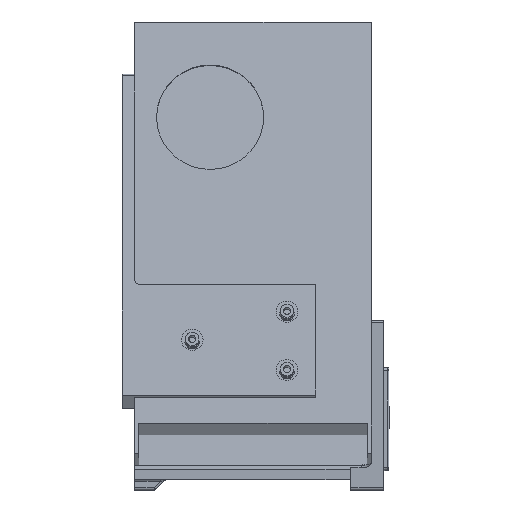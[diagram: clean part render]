
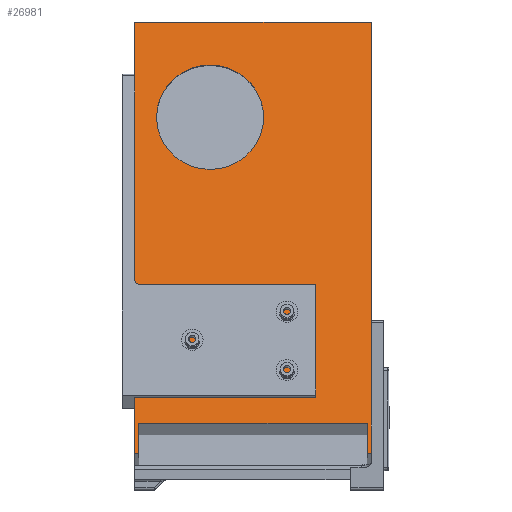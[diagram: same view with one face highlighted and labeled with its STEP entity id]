
A CAD part, front view. The second image highlights one B-rep face of the part: STEP entity #26981.
In plain terms, the highlighted planar face has unit normal (0, -0.974, 0.225) as drawn and (-1, 0, 0) by its records, which use the part's own axes.
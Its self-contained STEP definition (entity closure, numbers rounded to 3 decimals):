
#508=FACE_BOUND('',#3156,.T.);
#629=PLANE('',#28496);
#1679=FACE_OUTER_BOUND('',#3155,.T.);
#3155=EDGE_LOOP('',(#18563,#18564,#18565,#18566,#18567,#18568,#18569,#18570));
#3156=EDGE_LOOP('',(#18571));
#4736=LINE('',#37778,#8021);
#4739=LINE('',#37784,#8024);
#4742=LINE('',#37790,#8027);
#4745=LINE('',#37796,#8030);
#4746=LINE('',#37798,#8031);
#4747=LINE('',#37800,#8032);
#4748=LINE('',#37802,#8033);
#4749=LINE('',#37803,#8034);
#8021=VECTOR('',#30516,10.);
#8024=VECTOR('',#30521,10.);
#8027=VECTOR('',#30526,10.);
#8030=VECTOR('',#30533,10.);
#8031=VECTOR('',#30534,10.);
#8032=VECTOR('',#30535,10.);
#8033=VECTOR('',#30536,10.);
#8034=VECTOR('',#30537,10.);
#11307=CIRCLE('',#28489,26.);
#11818=VERTEX_POINT('',#37765);
#11822=VERTEX_POINT('',#37775);
#11823=VERTEX_POINT('',#37777);
#11825=VERTEX_POINT('',#37783);
#11827=VERTEX_POINT('',#37789);
#11828=VERTEX_POINT('',#37795);
#11829=VERTEX_POINT('',#37797);
#11830=VERTEX_POINT('',#37799);
#11831=VERTEX_POINT('',#37801);
#14439=EDGE_CURVE('',#11818,#11818,#11307,.T.);
#14444=EDGE_CURVE('',#11823,#11822,#4736,.T.);
#14447=EDGE_CURVE('',#11825,#11823,#4739,.T.);
#14450=EDGE_CURVE('',#11827,#11825,#4742,.T.);
#14453=EDGE_CURVE('',#11828,#11822,#4745,.T.);
#14454=EDGE_CURVE('',#11829,#11828,#4746,.T.);
#14455=EDGE_CURVE('',#11830,#11829,#4747,.T.);
#14456=EDGE_CURVE('',#11830,#11831,#4748,.T.);
#14457=EDGE_CURVE('',#11827,#11831,#4749,.T.);
#18563=ORIENTED_EDGE('',*,*,#14450,.T.);
#18564=ORIENTED_EDGE('',*,*,#14447,.T.);
#18565=ORIENTED_EDGE('',*,*,#14444,.T.);
#18566=ORIENTED_EDGE('',*,*,#14453,.F.);
#18567=ORIENTED_EDGE('',*,*,#14454,.F.);
#18568=ORIENTED_EDGE('',*,*,#14455,.F.);
#18569=ORIENTED_EDGE('',*,*,#14456,.T.);
#18570=ORIENTED_EDGE('',*,*,#14457,.F.);
#18571=ORIENTED_EDGE('',*,*,#14439,.T.);
#26981=ADVANCED_FACE('',(#1679,#508),#629,.T.);
#28489=AXIS2_PLACEMENT_3D('',#37766,#30505,#30506);
#28496=AXIS2_PLACEMENT_3D('',#37794,#30531,#30532);
#30505=DIRECTION('center_axis',(1.,0.,0.));
#30506=DIRECTION('ref_axis',(0.,-1.,0.));
#30516=DIRECTION('',(0.,1.,0.));
#30521=DIRECTION('',(0.,0.,-1.));
#30526=DIRECTION('',(0.,-1.,0.));
#30531=DIRECTION('center_axis',(-1.,0.,0.));
#30532=DIRECTION('ref_axis',(0.,0.,1.));
#30533=DIRECTION('',(0.,0.,1.));
#30534=DIRECTION('',(0.,1.,0.));
#30535=DIRECTION('',(0.,0.,-1.));
#30536=DIRECTION('',(0.,1.,0.));
#30537=DIRECTION('',(0.,0.,1.));
#37765=CARTESIAN_POINT('',(0.,73.45,78.3));
#37766=CARTESIAN_POINT('Origin',(0.,47.45,78.3));
#37775=CARTESIAN_POINT('',(0.,215.,2.));
#37777=CARTESIAN_POINT('',(0.,200.,2.));
#37778=CARTESIAN_POINT('',(0.,100.,2.));
#37783=CARTESIAN_POINT('',(0.,200.,113.));
#37784=CARTESIAN_POINT('',(0.,200.,56.5));
#37789=CARTESIAN_POINT('',(0.,215.,113.));
#37790=CARTESIAN_POINT('',(0.,107.5,113.));
#37794=CARTESIAN_POINT('Origin',(0.,0.,0.));
#37795=CARTESIAN_POINT('',(0.,215.,0.));
#37796=CARTESIAN_POINT('',(0.,215.,115.));
#37797=CARTESIAN_POINT('',(0.,0.,0.));
#37798=CARTESIAN_POINT('',(0.,0.,0.));
#37799=CARTESIAN_POINT('',(0.,0.,115.));
#37800=CARTESIAN_POINT('',(0.,0.,115.));
#37801=CARTESIAN_POINT('',(0.,215.,115.));
#37802=CARTESIAN_POINT('',(0.,0.,115.));
#37803=CARTESIAN_POINT('',(0.,215.,115.));
